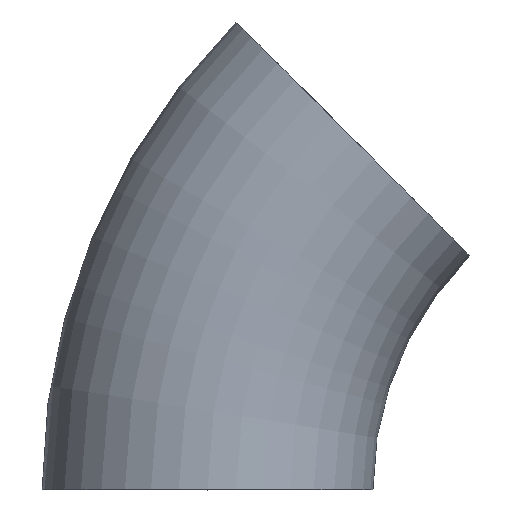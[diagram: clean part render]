
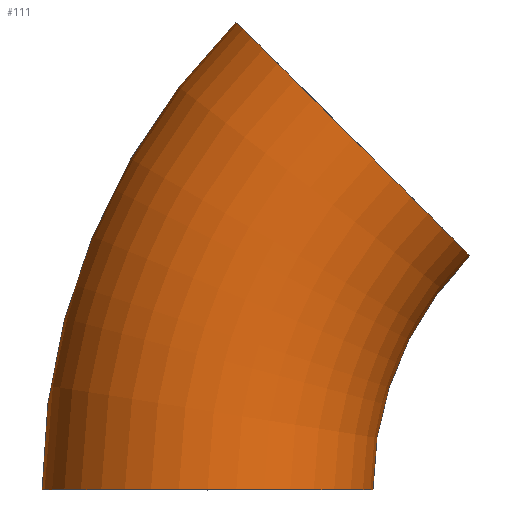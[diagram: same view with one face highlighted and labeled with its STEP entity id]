
A CAD part, top view. The second image highlights one B-rep face of the part: STEP entity #111.
In plain terms, the highlighted toroidal (fillet/blend) face has major radius 38.1 mm and minor radius 12.7 mm.
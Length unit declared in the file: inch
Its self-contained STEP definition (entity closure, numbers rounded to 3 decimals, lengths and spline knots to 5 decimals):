
#1 = DIRECTION ( 'NONE',  ( 0., 1., 0. ) ) ;
#2 = CARTESIAN_POINT ( 'NONE',  ( 0., 0., 0. ) ) ;
#12 = DIRECTION ( 'NONE',  ( 0., 0., 1. ) ) ;
#15 = DIRECTION ( 'NONE',  ( 0., 0., 1. ) ) ;
#25 = CARTESIAN_POINT ( 'NONE',  ( -1.5, 0., 0. ) ) ;
#27 = TOROIDAL_SURFACE ( 'NONE', #179, 1.5, 0.5 ) ;
#36 = DIRECTION ( 'NONE',  ( 0., 0., 1. ) ) ;
#37 = DIRECTION ( 'NONE',  ( 1., 0., 0. ) ) ;
#39 = CARTESIAN_POINT ( 'NONE',  ( 0., 0., 0. ) ) ;
#47 = DIRECTION ( 'NONE',  ( 0., 0., 1. ) ) ;
#54 = DIRECTION ( 'NONE',  ( 0.707, 0.707, 0. ) ) ;
#59 = CARTESIAN_POINT ( 'NONE',  ( -1.06066, 1.06066, 0. ) ) ;
#68 = ORIENTED_EDGE ( 'NONE', *, *, #236, .T. ) ;
#99 = VERTEX_POINT ( 'NONE', #229 ) ;
#107 = ORIENTED_EDGE ( 'NONE', *, *, #251, .T. ) ;
#111 = ADVANCED_FACE ( 'NONE', ( #241 ), #27, .T. ) ;
#128 = AXIS2_PLACEMENT_3D ( 'NONE', #2, #15, #176 ) ;
#132 = CIRCLE ( 'NONE', #135, 0.5 ) ;
#133 = CARTESIAN_POINT ( 'NONE',  ( -1., 0., 0. ) ) ;
#134 = CARTESIAN_POINT ( 'NONE',  ( -0.70711, 0.70711, 0. ) ) ;
#135 = AXIS2_PLACEMENT_3D ( 'NONE', #25, #1, #12 ) ;
#138 = AXIS2_PLACEMENT_3D ( 'NONE', #39, #36, #37 ) ;
#141 = AXIS2_PLACEMENT_3D ( 'NONE', #59, #54, #47 ) ;
#148 = DIRECTION ( 'NONE',  ( 1., 0., 0. ) ) ;
#155 = CIRCLE ( 'NONE', #138, 2. ) ;
#167 = CIRCLE ( 'NONE', #141, 0.5 ) ;
#173 = CIRCLE ( 'NONE', #128, 1. ) ;
#176 = DIRECTION ( 'NONE',  ( 1., 0., 0. ) ) ;
#178 = DIRECTION ( 'NONE',  ( 0., 0., 1. ) ) ;
#179 = AXIS2_PLACEMENT_3D ( 'NONE', #231, #178, #148 ) ;
#182 = ORIENTED_EDGE ( 'NONE', *, *, #253, .F. ) ;
#189 = EDGE_LOOP ( 'NONE', ( #228, #68, #107, #182 ) ) ;
#193 = VERTEX_POINT ( 'NONE', #245 ) ;
#217 = VERTEX_POINT ( 'NONE', #133 ) ;
#224 = EDGE_CURVE ( 'NONE', #99, #248, #167, .T. ) ;
#228 = ORIENTED_EDGE ( 'NONE', *, *, #224, .F. ) ;
#229 = CARTESIAN_POINT ( 'NONE',  ( -1.41421, 1.41421, 0. ) ) ;
#231 = CARTESIAN_POINT ( 'NONE',  ( 0., 0., 0. ) ) ;
#236 = EDGE_CURVE ( 'NONE', #99, #193, #155, .T. ) ;
#241 = FACE_OUTER_BOUND ( 'NONE', #189, .T. ) ;
#245 = CARTESIAN_POINT ( 'NONE',  ( -2., 0., 0. ) ) ;
#248 = VERTEX_POINT ( 'NONE', #134 ) ;
#251 = EDGE_CURVE ( 'NONE', #193, #217, #132, .T. ) ;
#253 = EDGE_CURVE ( 'NONE', #248, #217, #173, .T. ) ;
